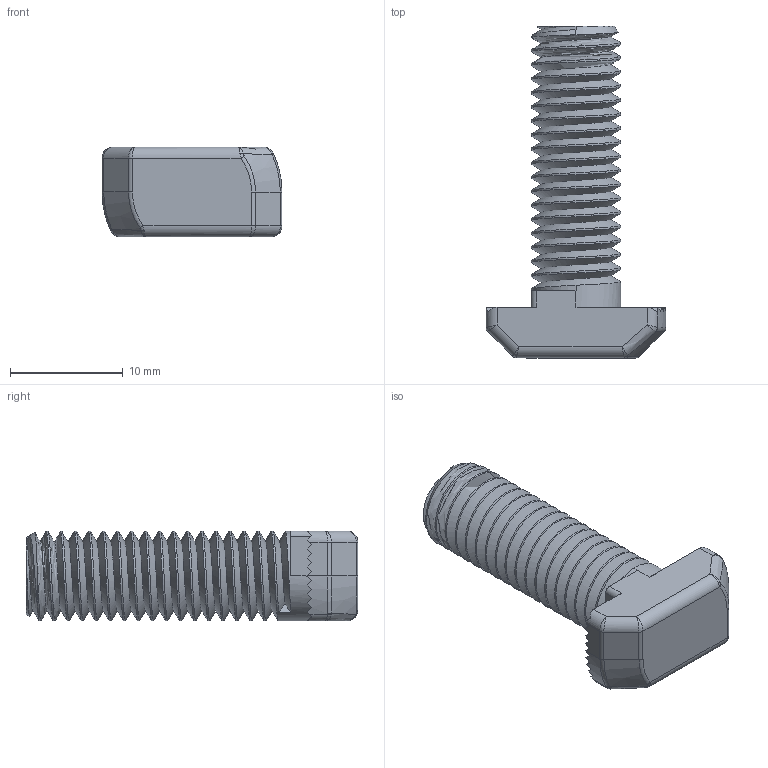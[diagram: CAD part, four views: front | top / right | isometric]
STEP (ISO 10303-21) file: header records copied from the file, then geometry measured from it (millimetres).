
FILE_DESCRIPTION (( 'STEP AP214' ), '1' );
FILE_NAME ('Drop In Bolt - T-Slot - 30 Series - M8 - 25mm.STEP', '2024-09-30T09:48:34', ( '' ), ( '' ), 'SwSTEP 2.0', 'SolidWorks 2024', '' );
FILE_SCHEMA (( 'AUTOMOTIVE_DESIGN' ));
Length unit declared in the file: millimetre
Products named in the file (1): Drop In Bolt - T-Slot - 30 Series - M8 - 25mm
Bounding box: 16 x 29.5 x 8 mm (x, y, z)
Volume: 1536.9 mm3; surface area: 1437.4 mm2
Topology: 1 solids, 1 shells, 136 faces, 369 edges, 228 vertices
Faces by surface type: plane 59, cylinder 52, bspline 16, cone 5, torus 4
Entity records: 6583 total; most frequent: CARTESIAN_POINT 3689, ORIENTED_EDGE 722, DIRECTION 473, EDGE_CURVE 361, VERTEX_POINT 228, LINE 169, VECTOR 169, AXIS2_PLACEMENT_3D 152
